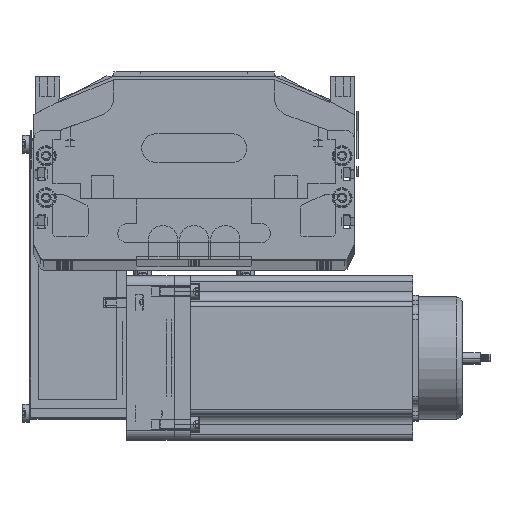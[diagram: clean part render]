
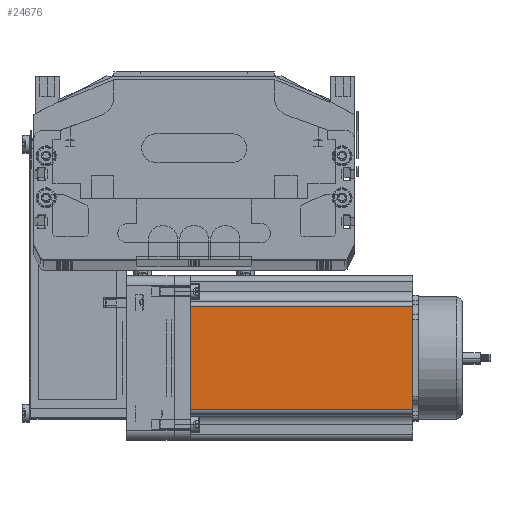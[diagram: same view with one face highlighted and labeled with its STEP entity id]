
A CAD part, top view. The second image highlights one B-rep face of the part: STEP entity #24676.
In plain terms, the highlighted planar face has unit normal (0, 0, 1) as drawn and (0, -1, 0) by its records, which use the part's own axes.
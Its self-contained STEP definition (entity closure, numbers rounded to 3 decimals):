
#24532 = EDGE_LOOP ( 'NONE', ( #24872, #24747, #24744, #24752 ) ) ;
#24676 = ADVANCED_FACE ( 'NONE', ( #53045 ), #53097, .F. ) ;
#24739 = VERTEX_POINT ( 'NONE', #53166 ) ;
#24740 = VERTEX_POINT ( 'NONE', #53165 ) ;
#24742 = VERTEX_POINT ( 'NONE', #53164 ) ;
#24744 = ORIENTED_EDGE ( 'NONE', *, *, #24748, .F. ) ;
#24747 = ORIENTED_EDGE ( 'NONE', *, *, #24873, .T. ) ;
#24748 = EDGE_CURVE ( 'NONE', #24750, #24740, #53161, .T. ) ;
#24750 = VERTEX_POINT ( 'NONE', #53151 ) ;
#24752 = ORIENTED_EDGE ( 'NONE', *, *, #24753, .T. ) ;
#24753 = EDGE_CURVE ( 'NONE', #24750, #24739, #53159, .T. ) ;
#24872 = ORIENTED_EDGE ( 'NONE', *, *, #24876, .T. ) ;
#24873 = EDGE_CURVE ( 'NONE', #24742, #24740, #53289, .T. ) ;
#24876 = EDGE_CURVE ( 'NONE', #24739, #24742, #53274, .T. ) ;
#52754 = VECTOR ( 'NONE', #52763, 1000. ) ;
#52763 = DIRECTION ( 'NONE',  ( 1., 0., 0. ) ) ;
#53045 = FACE_OUTER_BOUND ( 'NONE', #24532, .T. ) ;
#53088 = DIRECTION ( 'NONE',  ( 0., 0., 1. ) ) ;
#53089 = DIRECTION ( 'NONE',  ( 0., 1., 0. ) ) ;
#53097 = PLANE ( 'NONE',  #53098 ) ;
#53098 = AXIS2_PLACEMENT_3D ( 'NONE', #53109, #53089, #53088 ) ;
#53109 = CARTESIAN_POINT ( 'NONE',  ( 0., 0., 116.5 ) ) ;
#53151 = CARTESIAN_POINT ( 'NONE',  ( 16.16, 0., 116.5 ) ) ;
#53152 = DIRECTION ( 'NONE',  ( 1., 0., 0. ) ) ;
#53153 = VECTOR ( 'NONE', #53152, 1000. ) ;
#53158 = CARTESIAN_POINT ( 'NONE',  ( 16.16, 0., 116.5 ) ) ;
#53159 = LINE ( 'NONE', #53158, #53206 ) ;
#53160 = CARTESIAN_POINT ( 'NONE',  ( 0., 0., 116.5 ) ) ;
#53161 = LINE ( 'NONE', #53160, #53153 ) ;
#53164 = CARTESIAN_POINT ( 'NONE',  ( 69.74, 0., 0. ) ) ;
#53165 = CARTESIAN_POINT ( 'NONE',  ( 69.74, 0., 116.5 ) ) ;
#53166 = CARTESIAN_POINT ( 'NONE',  ( 16.16, 0., 0. ) ) ;
#53205 = DIRECTION ( 'NONE',  ( 0., 0., -1. ) ) ;
#53206 = VECTOR ( 'NONE', #53205, 1000. ) ;
#53273 = CARTESIAN_POINT ( 'NONE',  ( 0., 0., 0. ) ) ;
#53274 = LINE ( 'NONE', #53273, #52754 ) ;
#53275 = DIRECTION ( 'NONE',  ( 0., 0., 1. ) ) ;
#53276 = VECTOR ( 'NONE', #53275, 1000. ) ;
#53277 = CARTESIAN_POINT ( 'NONE',  ( 69.74, 0., 116.5 ) ) ;
#53289 = LINE ( 'NONE', #53277, #53276 ) ;
